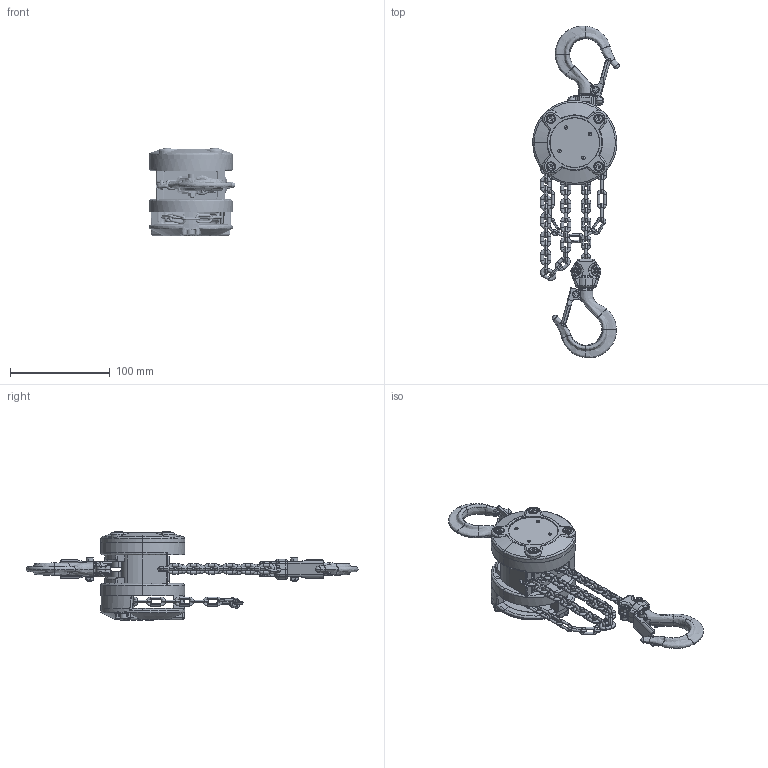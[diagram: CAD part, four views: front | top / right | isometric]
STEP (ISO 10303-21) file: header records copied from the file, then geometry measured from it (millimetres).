
FILE_DESCRIPTION (( 'STEP AP214' ), '1' );
FILE_NAME ('CX003.STEP', '2026-08-13T12:55:23', ( '' ), ( '' ), 'SwSTEP 2.0', 'SolidWorks 2026', '' );
FILE_SCHEMA (( 'AUTOMOTIVE_DESIGN' ));
Length unit declared in the file: millimetre
Products named in the file (27): L1XA003-90312; J1WS012-20040-1; C1XA003-91771; C1XA003-91622; C1XA003-91031; J1RA11-040016-1; CX003; L1XA003-90111; C1XA003-91711; J1BE3-0503022; J1NA002-10040; L4BA008-90721; L1XA003-90011-1; L1XA003-98531; C1XA003-91091; J1BE3-0501515; C1XA003-98001; CHAIN LAYOUT; C2BA005-90744; KAUNO32-00001; K7SX025-00000-1; C1XA003-91041; C1XA003-91611; L1XA003-90711; J1BE2-0401010; KAUN032-00002; K7SX025-00000
Assembly tree (118 placements, depth 3):
  CX003
    CHAIN LAYOUT
      K7SX025-00000-1  x8
      K7SX025-00000  x9
      KAUNO32-00001  x21
      KAUN032-00002  x29
    C1XA003-91771
    L1XA003-90312  x2
    J1BE2-0401010  x2
    J1WS012-20040-1  x2
    J1NA002-10040  x2
    L1XA003-90011-1  x2
    L1XA003-90711  x2
    L4BA008-90721  x2
    C2BA005-90744  x2
    L1XA003-90111  x2
    J1RA11-040016-1  x2
    C1XA003-91041
    J1BE3-0503022  x3
    C1XA003-91711
    C1XA003-91091  x7
    J1BE3-0501515  x4
    L1XA003-98531  x4
    C1XA003-98001
    C1XA003-91031
    C1XA003-91611
    C1XA003-91622
    K7SX025-00000  x5
Bounding box: 86.52 x 332.14 x 88.35 mm (x, y, z)
Volume: 389380.4 mm3; surface area: 133770.1 mm2
Topology: 119 solids, 119 shells, 2590 faces, 6618 edges, 4050 vertices
Faces by surface type: cylinder 923, bspline 823, plane 645, cone 194, torus 5
Entity records: 67058 total; most frequent: CARTESIAN_POINT 34877, ORIENTED_EDGE 7154, DIRECTION 5605, EDGE_CURVE 3577, VERTEX_POINT 2269, AXIS2_PLACEMENT_3D 2102, EDGE_LOOP 1482, VECTOR 1401
